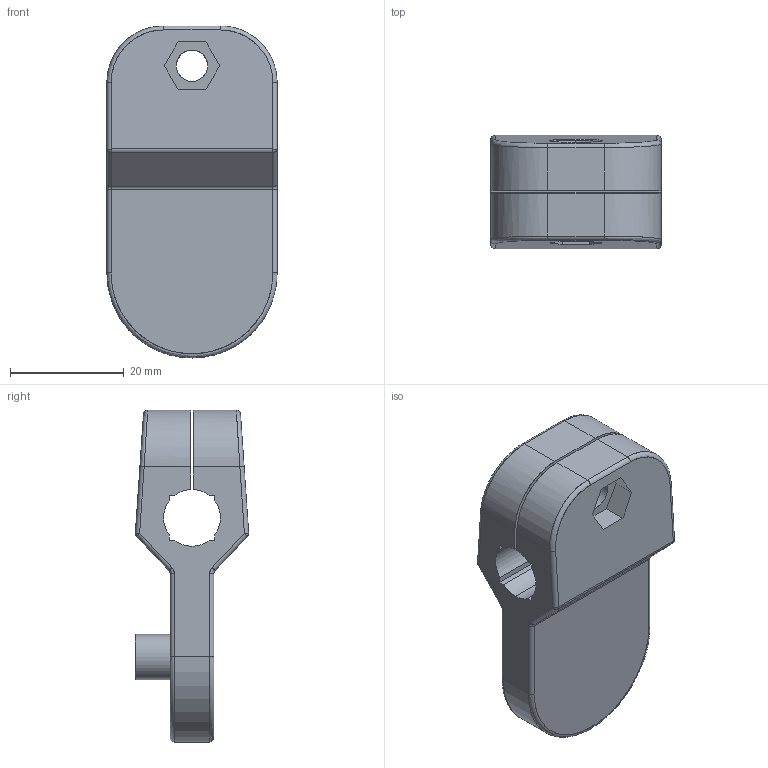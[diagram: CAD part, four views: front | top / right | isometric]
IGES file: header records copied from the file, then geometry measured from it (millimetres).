
Start section: SolidWorks IGES file using analytic representation for surfaces
Global section: file name: C:\Documents and Settings\ARGE\Desktop\yeni katalog tolgay düzenli\B kataloðu\FOTOSEL TUTMA MENGENE-2\export\214 IFM 010.IGS; native system: SolidWorks 2006 by SolidWorks Corporation; preprocessor: SolidWorks 2006 by SolidWorks Corporation; author: ARGE2; date: 060911.183832; units: millimetre
Bounding box: 30 x 19.96 x 58.5 mm (x, y, z)
Surface area: 7476.3 mm2 (no closed solid volume)
Topology: 0 solids, 0 shells, 86 faces, 952 edges, 952 vertices
Faces by surface type: revolution 44, bspline 42
